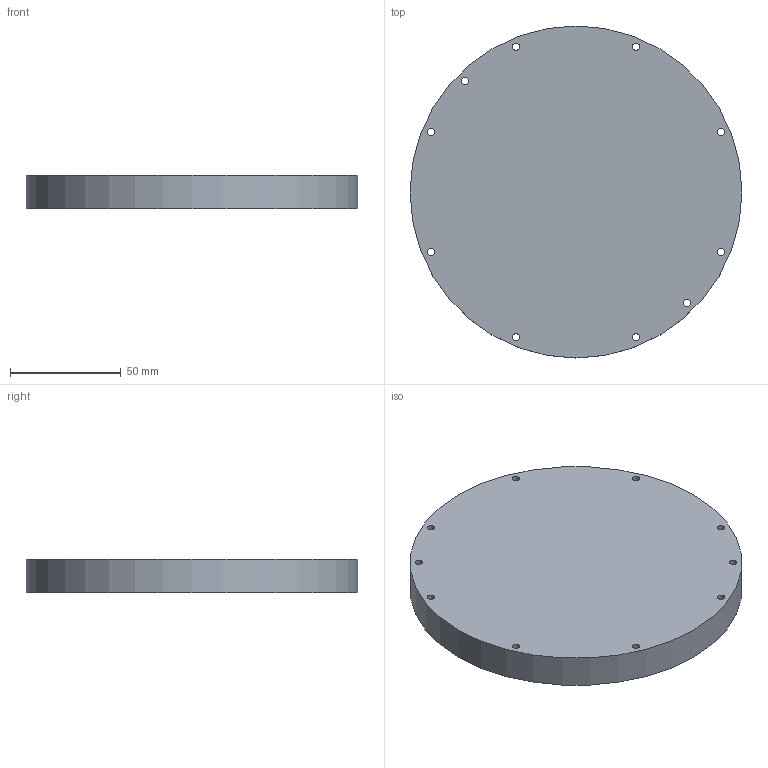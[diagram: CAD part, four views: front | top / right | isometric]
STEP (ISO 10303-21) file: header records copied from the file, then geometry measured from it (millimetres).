
FILE_DESCRIPTION(/* description */ (''),/* implementation_level */ '2;1');
FILE_NAME(/* name */ 'cap_150mm_acrylic_r1.step',/* time_stamp */ '2025-12-24T02:07:56+03:00',/* author */ (''),/* organization */ (''),/* preprocessor_version */ 'ST-DEVELOPER v20.1',/* originating_system */ 'Autodesk Translation Framework v14.21.0.0',/* authorisation */ '');
FILE_SCHEMA (('AUTOMOTIVE_DESIGN { 1 0 10303 214 3 1 1 }'));
Length unit declared in the file: millimetre
Products named in the file (1): Acrylic Cap 150mm
Bounding box: 150 x 150 x 15 mm (x, y, z)
Volume: 263788.9 mm3; surface area: 43795.5 mm2
Topology: 1 solids, 1 shells, 13 faces, 33 edges, 22 vertices
Faces by surface type: cylinder 11, plane 2
Full cylindrical faces by diameter (mm): 3.3 x10, 150 x1
Entity records: 482 total; most frequent: DIRECTION 83, CARTESIAN_POINT 69, ORIENTED_EDGE 66, AXIS2_PLACEMENT_3D 36, EDGE_LOOP 33, EDGE_CURVE 33, CIRCLE 22, VERTEX_POINT 22
